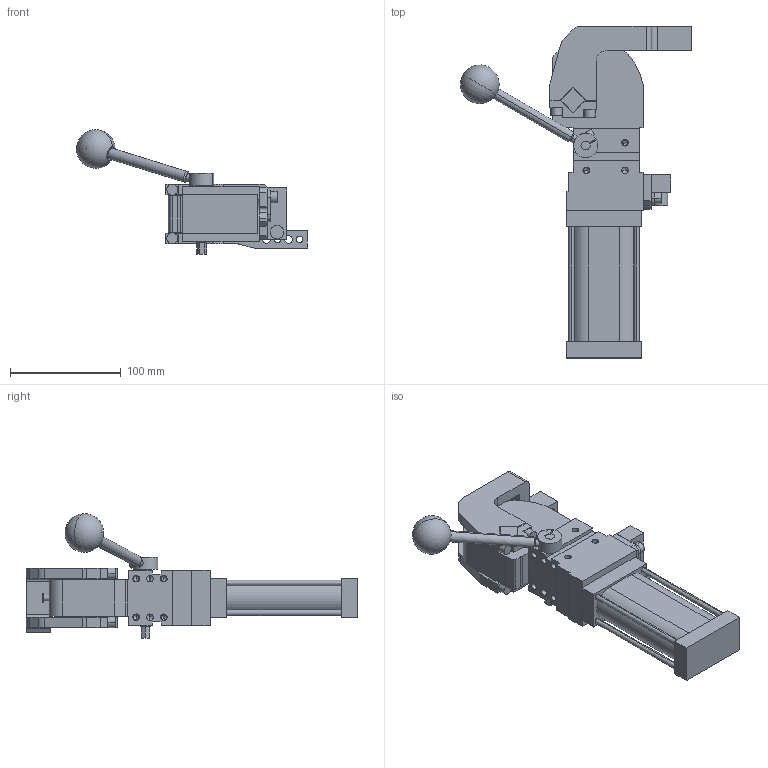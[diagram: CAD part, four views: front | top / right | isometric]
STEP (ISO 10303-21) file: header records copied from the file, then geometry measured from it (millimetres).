
FILE_DESCRIPTION (( 'STEP AP214' ), '1' );
FILE_NAME ('cplm40lav3dsi1g_57.STEP', '2021-05-25T12:41:55', ( '' ), ( '' ), 'SwSTEP 2.0', 'SolidWorks 2021', '' );
FILE_SCHEMA (( 'AUTOMOTIVE_DESIGN' ));
Length unit declared in the file: millimetre
Products named in the file (6): meccanica_cplm40; cplm40lav3dsi1g_57; blocchetto_VEP_0_cpl40; piastra_blocchetto_cpl40; leva_v3s_cpl40; comando_manuale_cplm_40
Assembly tree (5 placements, depth 2):
  cplm40lav3dsi1g_57
    meccanica_cplm40
    leva_v3s_cpl40
    blocchetto_VEP_0_cpl40
    piastra_blocchetto_cpl40
    comando_manuale_cplm_40
Bounding box: 208.62 x 300 x 112.66 mm (x, y, z)
Volume: 826523.5 mm3; surface area: 131070.1 mm2
Topology: 6 solids, 6 shells, 471 faces, 1213 edges, 765 vertices
Faces by surface type: plane 261, cylinder 162, cone 46, sphere 2
Entity records: 15653 total; most frequent: CARTESIAN_POINT 2525, DIRECTION 2500, ORIENTED_EDGE 2332, EDGE_CURVE 1166, AXIS2_PLACEMENT_3D 859, LINE 782, VECTOR 782, VERTEX_POINT 762
